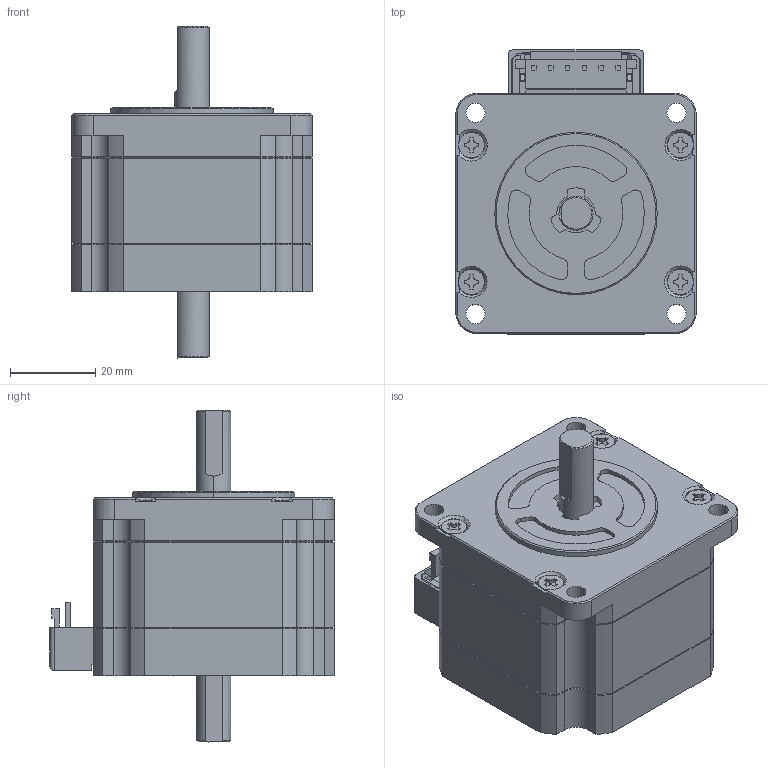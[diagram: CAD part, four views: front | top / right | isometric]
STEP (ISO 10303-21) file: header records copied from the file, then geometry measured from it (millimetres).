
FILE_DESCRIPTION (( 'STEP AP203' ), '1' );
FILE_NAME ('SM2561C10U11.STEP', '2021-05-07T07:30:40', ( '' ), ( '' ), 'SwSTEP 2.0', 'SolidWorks 2019', '' );
FILE_SCHEMA (( 'CONFIG_CONTROL_DESIGN' ));
Length unit declared in the file: millimetre
Products named in the file (11): Copy of REAR COVER^01124236; Copy of FRONT COVER^01124236; Copy of CONNECTOR^Copy of TERMINAL_01124236; Copy of STATOR^01124236; Copy of SUBSTRATE^Copy of TERMINAL_01124236; Copy of TERMINAL^01124236; Copy of SCREW^01124236; SM2561C10U11; Copy of INSULATOR_REAR^01124236_コネクタタイプ（10.1L）; Copy of COUNTER SHAFT^01124236; Copy of OUTPUT SHAFT^01124236
Assembly tree (13 placements, depth 3):
  SM2561C10U11
    Copy of FRONT COVER^01124236
    Copy of STATOR^01124236
    Copy of INSULATOR_REAR^01124236_コネクタタイプ（10.1L）
    Copy of TERMINAL^01124236
      Copy of SUBSTRATE^Copy of TERMINAL_01124236
      Copy of CONNECTOR^Copy of TERMINAL_01124236
    Copy of REAR COVER^01124236
    Copy of COUNTER SHAFT^01124236
    Copy of OUTPUT SHAFT^01124236
    Copy of SCREW^01124236  x4
Bounding box: 56.4 x 66.6 x 77.85 mm (x, y, z)
Volume: 140081.6 mm3; surface area: 38506.6 mm2
Topology: 12 solids, 12 shells, 630 faces, 1636 edges, 1056 vertices
Faces by surface type: plane 405, cylinder 162, cone 63
Entity records: 18401 total; most frequent: CARTESIAN_POINT 3138, ORIENTED_EDGE 2924, DIRECTION 2912, EDGE_CURVE 1462, LINE 1064, VECTOR 1064, VERTEX_POINT 942, AXIS2_PLACEMENT_3D 924
